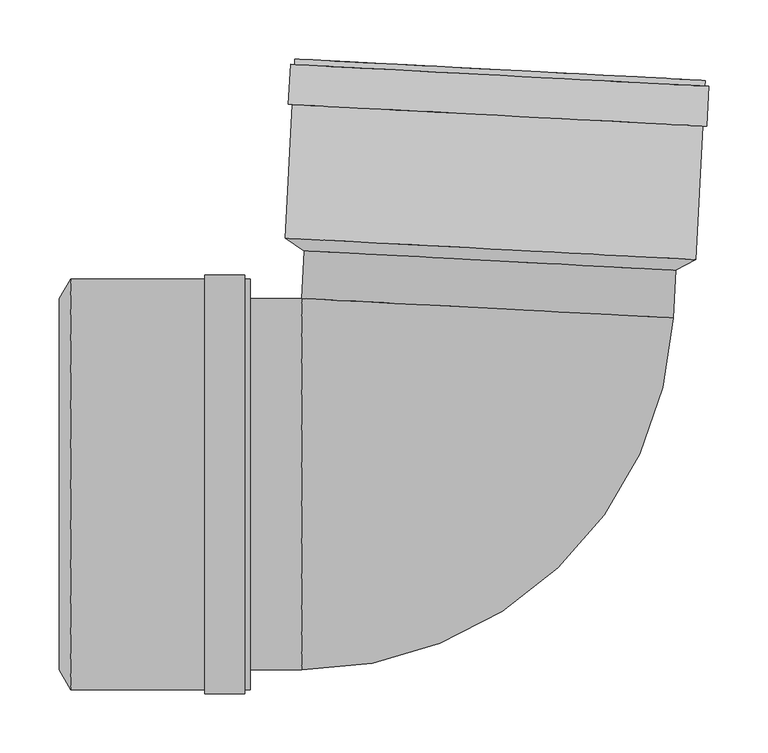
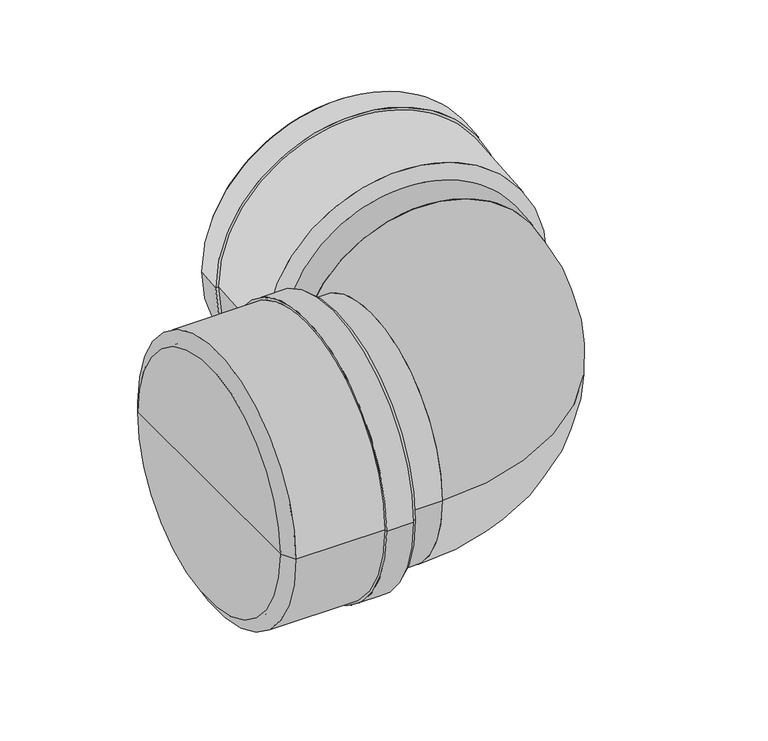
"""IFC4 building model written with IfcOpenShell, lengths in millimetres: pipe fitting geometry, pf_KGB : pf_KGB."""

from ifc_helpers import new_model, si_unit, point, frame, origin, origin_2d, place, context, project, spatial, polyline, circle_curve, ellipse_curve, trimmed, segment, composite_curve, outline, extrude, source, transform, mapped, element, save
from ifc_brep_helpers import plane_surface, cylinder_surface, revolved_surface, advanced_brep


def pipe_fitting_3e9633bb(model_context):
    return source(origin(), model_context, "Body", "SolidModel", [
        advanced_brep(
        [(167.2227498, 181.3968355, 0.0), (-147.3455536, 197.8826618, 0.0), (-163.4046779, 208.637871, 0.0), (184.3181261, 190.4144911, 0.0), (9.9385981, 189.6397486, 0.0), (192.278425, 342.3060433, 0.0), (-155.444379, 360.5294233, 0.0), (-138.8671287, 359.6606464, 0.0), (175.7011747, 343.1748202, 0.0), (-155.6955916, 355.7360015, 0.0), (192.0272124, 337.5126215, 0.0), (-159.090932, 355.9139437, 0.0), (195.4225528, 337.3346793, 0.0), (-160.8651209, 322.0604025, 0.0), (193.6483639, 303.4811381, 0.0), (-157.4697805, 321.8824603, 0.0), (190.2530235, 303.6590803, 0.0), (167.7408758, 191.2832679, 0.0), (-146.8274277, 207.7690942, 0.0), (10.4567241, 199.526181, 0.0)],
        [
            (0, 1, circle_curve(frame((9.9385981, 189.6397486, 0.0), z_axis=(0.0523359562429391, 0.9986295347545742, 0.0), x_axis=(-0.9986295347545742, 0.0523359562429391, 0.0)), 157.5)),
            (1, 2),
            (2, 3, circle_curve(frame((10.4567241, 199.526181, 0.0), z_axis=(-0.0523359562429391, -0.9986295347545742, 0.0), x_axis=(-0.9986295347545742, 0.0523359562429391, 0.0)), 174.1)),
            (3, 0),
            (1, 0, circle_curve(frame((9.9385981, 189.6397486, 0.0), z_axis=(0.0523359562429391, 0.9986295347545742, 0.0), x_axis=(-0.9986295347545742, 0.0523359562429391, 0.0)), 157.5)),
            (3, 2, circle_curve(frame((10.4567241, 199.526181, 0.0), z_axis=(-0.0523359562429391, -0.9986295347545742, 0.0), x_axis=(-0.9986295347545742, 0.0523359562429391, 0.0)), 174.1)),
            (4, 1),
            (0, 4),
            (5, 6, circle_curve(frame((18.417023, 351.4177333, 0.0), z_axis=(0.0523359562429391, 0.9986295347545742, 0.0), x_axis=(-0.9986295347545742, 0.0523359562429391, 0.0)), 174.1)),
            (6, 7),
            (7, 8, circle_curve(frame((18.417023, 351.4177333, 0.0), z_axis=(-0.0523359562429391, -0.9986295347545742, 0.0), x_axis=(-0.9986295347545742, 0.0523359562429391, 0.0)), 157.5)),
            (8, 5),
            (9, 10, circle_curve(frame((18.1658104, 346.6243115, 0.0), z_axis=(0.0523359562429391, 0.9986295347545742, 0.0), x_axis=(-0.9986295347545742, 0.0523359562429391, 0.0)), 174.1)),
            (10, 5),
            (5, 6, circle_curve(frame((18.417023, 351.4177333, 0.0), z_axis=(-0.0523359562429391, -0.9986295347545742, 0.0), x_axis=(-0.9986295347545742, 0.0523359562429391, 0.0)), 174.1)),
            (6, 9),
            (11, 12, circle_curve(frame((18.1658104, 346.6243115, 0.0), z_axis=(0.0523359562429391, 0.9986295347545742, 0.0), x_axis=(-0.9986295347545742, 0.0523359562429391, 0.0)), 177.5)),
            (12, 10),
            (9, 11),
            (13, 14, circle_curve(frame((16.3916215, 312.7707703, 0.0), z_axis=(0.0523359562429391, 0.9986295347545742, 0.0), x_axis=(-0.9986295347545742, 0.0523359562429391, 0.0)), 177.5)),
            (14, 12),
            (11, 13),
            (15, 16, circle_curve(frame((16.3916215, 312.7707703, 0.0), z_axis=(0.0523359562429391, 0.9986295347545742, 0.0), x_axis=(-0.9986295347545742, 0.0523359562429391, 0.0)), 174.1)),
            (16, 14),
            (13, 15),
            (8, 7, circle_curve(frame((18.417023, 351.4177333, 0.0), z_axis=(-0.0523359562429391, -0.9986295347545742, 0.0), x_axis=(-0.9986295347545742, 0.0523359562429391, 0.0)), 157.5)),
            (10, 9, circle_curve(frame((18.1658104, 346.6243115, 0.0), z_axis=(0.0523359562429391, 0.9986295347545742, 0.0), x_axis=(-0.9986295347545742, 0.0523359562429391, 0.0)), 174.1)),
            (12, 11, circle_curve(frame((18.1658104, 346.6243115, 0.0), z_axis=(0.0523359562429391, 0.9986295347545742, 0.0), x_axis=(-0.9986295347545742, 0.0523359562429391, 0.0)), 177.5)),
            (14, 13, circle_curve(frame((16.3916215, 312.7707703, 0.0), z_axis=(0.0523359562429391, 0.9986295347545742, 0.0), x_axis=(-0.9986295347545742, 0.0523359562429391, 0.0)), 177.5)),
            (16, 15, circle_curve(frame((16.3916215, 312.7707703, 0.0), z_axis=(0.0523359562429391, 0.9986295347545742, 0.0), x_axis=(-0.9986295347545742, 0.0523359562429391, 0.0)), 174.1)),
            (2, 15),
            (16, 3),
            (17, 18, circle_curve(frame((10.4567241, 199.526181, 0.0), z_axis=(0.0523359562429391, 0.9986295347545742, 0.0), x_axis=(-0.9986295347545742, 0.0523359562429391, 0.0)), 157.5)),
            (18, 19),
            (19, 17),
            (18, 17, circle_curve(frame((10.4567241, 199.526181, 0.0), z_axis=(0.0523359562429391, 0.9986295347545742, 0.0), x_axis=(-0.9986295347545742, 0.0523359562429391, 0.0)), 157.5)),
            (7, 18),
            (17, 8),
        ],
        [
            revolved_surface(polyline([(-163.4046779, 208.637871, 0.0), (-147.3455536, 197.8826618, 0.0)]), (9.9385981, 189.6397486, 0.0), (-0.0523359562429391, -0.9986295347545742, 0.0)),
            plane_surface(frame((9.9385981, 189.6397486, 0.0), z_axis=(-0.0523359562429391, -0.9986295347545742, 0.0), x_axis=(-0.9986295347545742, 0.0523359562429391, 0.0))),
            plane_surface(frame((18.417023, 351.4177333, 0.0), z_axis=(0.0523359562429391, 0.9986295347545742, 0.0), x_axis=(-0.9986295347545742, 0.0523359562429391, 0.0))),
            cylinder_surface(frame((9.9385981, 189.6397486, 0.0), z_axis=(-0.0523359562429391, -0.9986295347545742, 0.0), x_axis=(-0.9986295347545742, 0.0523359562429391, 0.0)), 174.1),
            plane_surface(frame((18.1658104, 346.6243115, 0.0), z_axis=(0.0523359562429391, 0.9986295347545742, 0.0), x_axis=(-0.9986295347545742, 0.0523359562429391, 0.0))),
            cylinder_surface(frame((9.9385981, 189.6397486, 0.0), z_axis=(-0.0523359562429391, -0.9986295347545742, 0.0), x_axis=(-0.9986295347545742, 0.0523359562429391, 0.0)), 177.5),
            plane_surface(frame((16.3916215, 312.7707703, 0.0), z_axis=(-0.0523359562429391, -0.9986295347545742, 0.0), x_axis=(-0.9986295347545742, 0.0523359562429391, 0.0))),
            plane_surface(frame((10.4567241, 199.526181, 0.0), z_axis=(0.0523359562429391, 0.9986295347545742, 0.0), x_axis=(-0.9986295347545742, 0.0523359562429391, 0.0))),
            revolved_surface(polyline([(-146.8274276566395, 207.76909410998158, 0.0), (-138.86712870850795, 359.66064641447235, 0.0)]), (9.9385981, 189.6397486, 0.0), (-0.0523359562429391, -0.9986295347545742, 0.0)),
        ],
        [
            (0, [[1, 2, 3, 4]]),
            (0, [[5, -4, 6, -2]]),
            (1, [[7, -1, 8]]),
            (1, [[-8, -5, -7]]),
            (2, [[9, 10, 11, 12]]),
            (3, [[13, 14, 15, 16]]),
            (4, [[17, 18, -13, 19]]),
            (5, [[20, 21, -17, 22]]),
            (6, [[23, 24, -20, 25]]),
            (2, [[-15, -12, 26, -10]]),
            (3, [[27, -16, -9, -14]]),
            (4, [[28, -19, -27, -18]]),
            (5, [[29, -22, -28, -21]]),
            (6, [[30, -25, -29, -24]]),
            (3, [[-3, 31, -30, 32]]),
            (3, [[-6, -32, -23, -31]]),
            (7, [[33, 34, 35]]),
            (7, [[36, -35, -34]]),
            (8, [[-11, 37, -33, 38]]),
            (8, [[-26, -38, -36, -37]]),
        ],
    ),
        advanced_brep(
        [(-355.3, -157.5, 0.0), (-355.3, 157.5, 0.0), (-345.4, 174.1, 0.0), (-345.4, -174.1, 0.0), (-355.3, 0.0, 0.0), (-193.3, -174.1, 0.0), (-193.3, 174.1, 0.0), (-193.3, 157.5, 0.0), (-193.3, -157.5, 0.0), (-198.1, 174.1, 0.0), (-198.1, -174.1, 0.0), (-198.1, 177.5, 0.0), (-198.1, -177.5, 0.0), (-232.0, 177.5, 0.0), (-232.0, -177.5, 0.0), (-232.0, 174.1, 0.0), (-232.0, -174.1, 0.0), (-345.4, -157.5, 0.0), (-345.4, 157.5, 0.0), (-345.4, 0.0, 0.0)],
        [
            (0, 1, circle_curve(frame((-355.3, 0.0, 0.0), z_axis=(1.0, 0.0, 0.0), x_axis=(0.0, 1.0, 0.0)), 157.5)),
            (1, 2),
            (2, 3, circle_curve(frame((-345.4, 0.0, 0.0), z_axis=(-1.0, 0.0, 0.0), x_axis=(0.0, 1.0, 0.0)), 174.1)),
            (3, 0),
            (1, 0, circle_curve(frame((-355.3, 0.0, 0.0), z_axis=(1.0, 0.0, 0.0), x_axis=(0.0, 1.0, 0.0)), 157.5)),
            (3, 2, circle_curve(frame((-345.4, 0.0, 0.0), z_axis=(-1.0, 0.0, 0.0), x_axis=(0.0, 1.0, 0.0)), 174.1)),
            (4, 1),
            (0, 4),
            (5, 6, circle_curve(frame((-193.3, 0.0, 0.0), z_axis=(1.0, 0.0, 0.0), x_axis=(0.0, 1.0, 0.0)), 174.1)),
            (6, 7),
            (7, 8, circle_curve(frame((-193.3, 0.0, 0.0), z_axis=(-1.0, 0.0, 0.0), x_axis=(0.0, 1.0, 0.0)), 157.5)),
            (8, 5),
            (9, 10, circle_curve(frame((-198.1, 0.0, 0.0), z_axis=(1.0, 0.0, 0.0), x_axis=(0.0, 1.0, 0.0)), 174.1)),
            (10, 5),
            (5, 6, circle_curve(frame((-193.3, 0.0, 0.0), z_axis=(-1.0, 0.0, 0.0), x_axis=(0.0, 1.0, 0.0)), 174.1)),
            (6, 9),
            (11, 12, circle_curve(frame((-198.1, 0.0, 0.0), z_axis=(1.0, 0.0, 0.0), x_axis=(0.0, 1.0, 0.0)), 177.5)),
            (12, 10),
            (9, 11),
            (13, 14, circle_curve(frame((-232.0, 0.0, 0.0), z_axis=(1.0, 0.0, 0.0), x_axis=(0.0, 1.0, 0.0)), 177.5)),
            (14, 12),
            (11, 13),
            (15, 16, circle_curve(frame((-232.0, 0.0, 0.0), z_axis=(1.0, 0.0, 0.0), x_axis=(0.0, 1.0, 0.0)), 174.1)),
            (16, 14),
            (13, 15),
            (8, 7, circle_curve(frame((-193.3, 0.0, 0.0), z_axis=(-1.0, 0.0, 0.0), x_axis=(0.0, 1.0, 0.0)), 157.5)),
            (10, 9, circle_curve(frame((-198.1, 0.0, 0.0), z_axis=(1.0, 0.0, 0.0), x_axis=(0.0, 1.0, 0.0)), 174.1)),
            (12, 11, circle_curve(frame((-198.1, 0.0, 0.0), z_axis=(1.0, 0.0, 0.0), x_axis=(0.0, 1.0, 0.0)), 177.5)),
            (14, 13, circle_curve(frame((-232.0, 0.0, 0.0), z_axis=(1.0, 0.0, 0.0), x_axis=(0.0, 1.0, 0.0)), 177.5)),
            (16, 15, circle_curve(frame((-232.0, 0.0, 0.0), z_axis=(1.0, 0.0, 0.0), x_axis=(0.0, 1.0, 0.0)), 174.1)),
            (2, 15),
            (16, 3),
            (17, 18, circle_curve(frame((-345.4, 0.0, 0.0), z_axis=(1.0, 0.0, 0.0), x_axis=(0.0, 1.0, 0.0)), 157.5)),
            (18, 19),
            (19, 17),
            (18, 17, circle_curve(frame((-345.4, 0.0, 0.0), z_axis=(1.0, 0.0, 0.0), x_axis=(0.0, 1.0, 0.0)), 157.5)),
            (7, 18),
            (17, 8),
        ],
        [
            revolved_surface(polyline([(-345.4, 174.1, 0.0), (-355.3, 157.5, 0.0)]), (-355.3, 0.0, 0.0), (-1.0, 0.0, 0.0)),
            plane_surface(frame((-355.3, 0.0, 0.0), z_axis=(-1.0, 0.0, 0.0), x_axis=(0.0, 1.0, 0.0))),
            plane_surface(frame((-193.3, 0.0, 0.0), z_axis=(1.0, 0.0, 0.0), x_axis=(0.0, 1.0, 0.0))),
            cylinder_surface(frame((-355.3, 0.0, 0.0), z_axis=(-1.0, 0.0, 0.0), x_axis=(0.0, 1.0, 0.0)), 174.1),
            plane_surface(frame((-198.1, 0.0, 0.0), z_axis=(1.0, 0.0, 0.0), x_axis=(0.0, 1.0, 0.0))),
            cylinder_surface(frame((-355.3, 0.0, 0.0), z_axis=(-1.0, 0.0, 0.0), x_axis=(0.0, 1.0, 0.0)), 177.5),
            plane_surface(frame((-232.0, 0.0, 0.0), z_axis=(-1.0, 0.0, 0.0), x_axis=(0.0, 1.0, 0.0))),
            plane_surface(frame((-345.4, 0.0, 0.0), z_axis=(1.0, 0.0, 0.0), x_axis=(0.0, 1.0, 0.0))),
            revolved_surface(polyline([(-345.4, 157.5, 0.0), (-193.3, 157.5, 0.0)]), (-355.3, 0.0, 0.0), (-1.0, 0.0, 0.0)),
        ],
        [
            (0, [[1, 2, 3, 4]]),
            (0, [[5, -4, 6, -2]]),
            (1, [[7, -1, 8]]),
            (1, [[-8, -5, -7]]),
            (2, [[9, 10, 11, 12]]),
            (3, [[13, 14, 15, 16]]),
            (4, [[17, 18, -13, 19]]),
            (5, [[20, 21, -17, 22]]),
            (6, [[23, 24, -20, 25]]),
            (2, [[-15, -12, 26, -10]]),
            (3, [[27, -16, -9, -14]]),
            (4, [[28, -19, -27, -18]]),
            (5, [[29, -22, -28, -21]]),
            (6, [[30, -25, -29, -24]]),
            (3, [[-3, 31, -30, 32]]),
            (3, [[-6, -32, -23, -31]]),
            (7, [[33, 34, 35]]),
            (7, [[36, -35, -34]]),
            (8, [[-11, 37, -33, 38]]),
            (8, [[-26, -38, -36, -37]]),
        ],
    ),
        extrude(outline(composite_curve([segment(trimmed(circle_curve(origin_2d(), 157.5), [point((0.0, -157.5000001))], [point((0.0, 157.5))], False, "CARTESIAN"), True, "CONTINUOUS"), segment(trimmed(circle_curve(origin_2d(), 157.5), [point((0.0, 157.5))], [point((0.0, -157.5000001))], False, "CARTESIAN"), True, "CONTINUOUS")], self_intersect=False)), frame((7.8222325, 149.2570869, 0.0), z_axis=(0.05233595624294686, 0.9986295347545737, 0.0), x_axis=(0.0, 0.0, 1.0)), (0.0, 0.0, 1.0), 40.4380807),
        extrude(outline(composite_curve([segment(trimmed(circle_curve(origin_2d(), 157.5), [point((-157.5, 0.0))], [point((157.5, 0.0))], False, "CARTESIAN"), True, "CONTINUOUS"), segment(trimmed(circle_curve(origin_2d(), 157.5), [point((157.5, 0.0))], [point((-157.5, 0.0))], False, "CARTESIAN"), True, "CONTINUOUS")], self_intersect=False)), frame((-345.4, 0.0, 0.0), z_axis=(1.0, 0.0, 0.0), x_axis=(0.0, 1.0, 0.0)), (0.0, 0.0, 1.0), 195.9380807),
        advanced_brep(
        [(-149.4619193, -157.5, 0.0), (-149.4619193, 157.5, 0.0), (165.1063842, 141.0141738, 0.0)],
        [
            (0, 1, circle_curve(frame((-149.4619193, 0.0, 0.0), z_axis=(-1.0, 0.0, 0.0), x_axis=(0.0, 1.0, 0.0)), 157.5)),
            (1, 0, circle_curve(frame((-149.4619193, 0.0, 0.0), z_axis=(-1.0, 0.0, 0.0), x_axis=(0.0, 1.0, 0.0)), 157.5)),
            (2, 1, circle_curve(frame((7.8222325, 149.2570869, 0.0), z_axis=(0.05233595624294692, 0.9986295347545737, 0.0), x_axis=(-0.9986295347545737, 0.05233595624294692, 0.0)), 157.5)),
            (1, 2, circle_curve(frame((7.8222325, 149.2570869, 0.0), z_axis=(0.05233595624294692, 0.9986295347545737, 0.0), x_axis=(-0.9986295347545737, 0.05233595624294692, 0.0)), 157.5)),
            (2, 0, circle_curve(frame((-149.4619193, 157.5, 0.0), z_axis=(0.0, 0.0, -1.0), x_axis=(0.0, -1.0, 0.0)), 315.0)),
        ],
        [
            plane_surface(frame((-149.4619193, 157.5, -14.8), z_axis=(-1.0, 0.0, 0.0), x_axis=(0.0, -1.0, 0.0))),
            plane_surface(frame((-149.4619193, 157.5, -14.8), z_axis=(0.052335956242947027, 0.9986295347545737, 0.0), x_axis=(0.9986295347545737, -0.052335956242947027, 0.0))),
            revolved_surface(trimmed(ellipse_curve(frame((-149.4619193, 0.0, 0.0), z_axis=(1.0, 0.0, 0.0), x_axis=(0.0, 1.0, 0.0)), 157.5, 157.5), [point((-149.4619193, -157.5, 0.0))], [point((-149.4619193, 157.5, 0.0))], True, "CARTESIAN"), (-149.4619193, 157.5, -14.8), (0.0, 0.0, -1.0)),
            revolved_surface(trimmed(ellipse_curve(frame((-149.4619193, 0.0, 0.0), z_axis=(1.0, 0.0, 0.0), x_axis=(0.0, 1.0, 0.0)), 157.5, 157.5), [point((-149.4619193, 157.5, 0.0))], [point((-149.4619193, -157.5, 0.0))], True, "CARTESIAN"), (-149.4619193, 157.5, -14.8), (0.0, 0.0, -1.0)),
        ],
        [
            (0, [[1, 2]]),
            (1, [[3, 4]]),
            (2, [[5, -2, -3]]),
            (3, [[-1, -5, -4]]),
        ],
    ),
    ])


if __name__ == "__main__":
    model = new_model("IFC4")
    model_context = context("Model", 3, world=origin())
    ifc_project = project(units=[si_unit("LENGTHUNIT", "METRE", prefix="MILLI")], contexts=[model_context])
    site = spatial("IfcSite", under=ifc_project)
    building = spatial("IfcBuilding", under=site)
    placement = place(None, origin())
    pipe_fitting_shape = pipe_fitting_3e9633bb(model_context)
    element("IfcPipeFitting", 1, ObjectType="pf_KGB : pf_KGB", at=placement, inside=building, context=model_context, shape_type="MappedRepresentation", body=[
        mapped(pipe_fitting_shape, transform((0.0, 0.0, 0.0), x_axis=(1.0, 0.0, 0.0), y_axis=(0.0, 1.0, 0.0), z_axis=(0.0, 0.0, 1.0))),
    ])
    save(model, "model.ifc")
